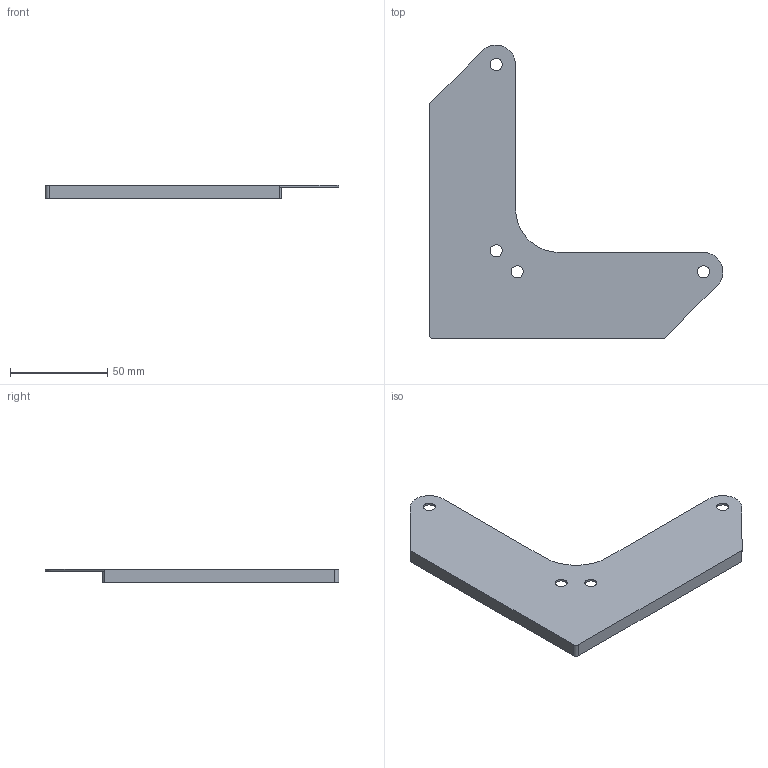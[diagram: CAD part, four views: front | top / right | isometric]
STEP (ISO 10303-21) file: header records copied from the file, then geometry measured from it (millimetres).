
FILE_DESCRIPTION(/* description */ (''),/* implementation_level */ '2;1');
FILE_NAME(/* name */ 'Cupboard handle template 96mm.step',/* time_stamp */ '2026-04-06T17:34:18+02:00',/* author */ (''),/* organization */ (''),/* preprocessor_version */ 'ST-DEVELOPER v20.1',/* originating_system */ 'Autodesk Translation Framework v14.24.0.0',/* authorisation */ '');
FILE_SCHEMA (('AUTOMOTIVE_DESIGN { 1 0 10303 214 3 1 1 }'));
Length unit declared in the file: millimetre
Products named in the file (1): door template 2
Bounding box: 151.32 x 151.32 x 7 mm (x, y, z)
Volume: 13385.8 mm3; surface area: 24536.2 mm2
Topology: 1 solids, 1 shells, 21 faces, 57 edges, 38 vertices
Faces by surface type: plane 11, cylinder 10
Full cylindrical faces by diameter (mm): 6.3 x4
Entity records: 722 total; most frequent: DIRECTION 123, CARTESIAN_POINT 117, ORIENTED_EDGE 114, EDGE_CURVE 57, AXIS2_PLACEMENT_3D 44, VERTEX_POINT 38, LINE 35, VECTOR 35
